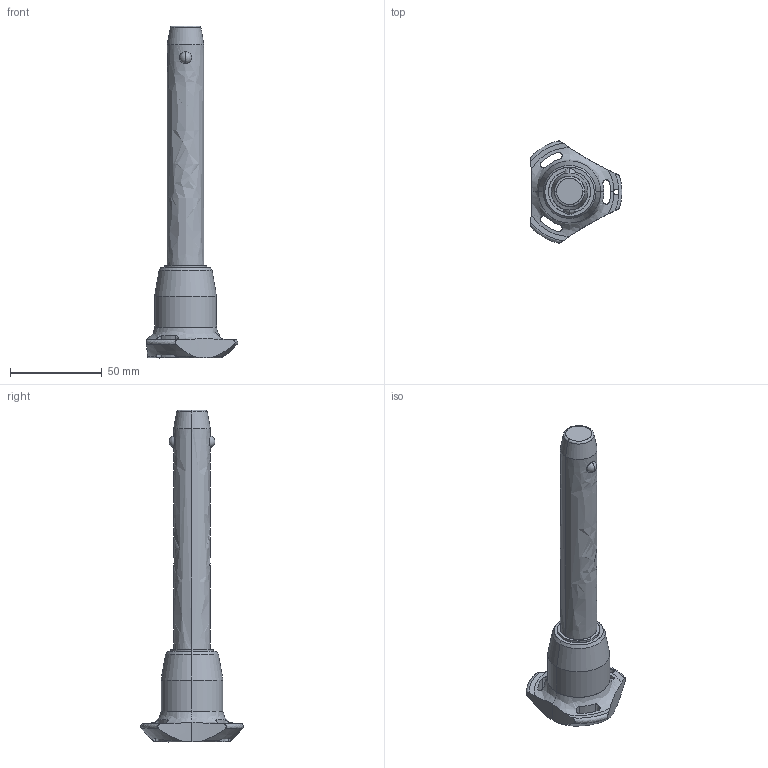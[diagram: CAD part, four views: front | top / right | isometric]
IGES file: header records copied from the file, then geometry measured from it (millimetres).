
Start section: SolidWorks IGES file using analytic representation for surfaces
Global section: file name: C:\Users\ianosborn\Desktop\QR1734_v2\QR1734_v2_20251113_IGES\QR1734.M20-110-S.igs; native system: SolidWorks 2019; preprocessor: SolidWorks 2019; author: IanOsborn; date: 251112.144215; units: millimetre
Bounding box: 50.03 x 56.02 x 181.2 mm (x, y, z)
Surface area: 17878.8 mm2 (no closed solid volume)
Topology: 0 solids, 0 shells, 65 faces, 1310 edges, 1306 vertices
Faces by surface type: revolution 50, bspline 15
